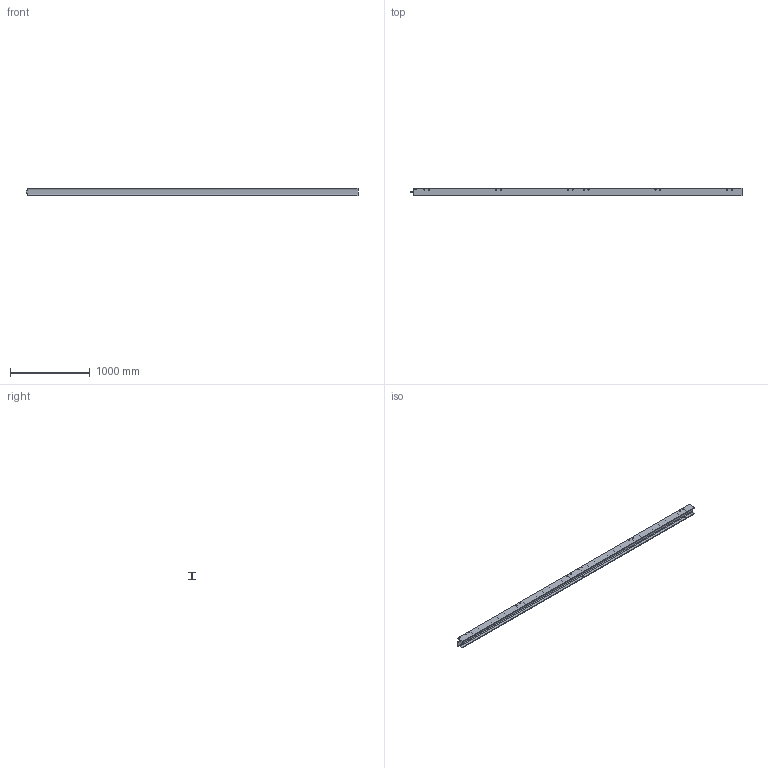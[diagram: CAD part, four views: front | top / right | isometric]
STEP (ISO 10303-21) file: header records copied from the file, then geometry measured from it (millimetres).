
FILE_DESCRIPTION (( 'STEP AP214' ), '1' );
FILE_NAME ('CCJ029-REP.017 - POUTRE B4-B6.STEP', '2025-02-13T07:38:46', ( '' ), ( '' ), 'SwSTEP 2.0', 'SolidWorks 2021', '' );
FILE_SCHEMA (( 'AUTOMOTIVE_DESIGN' ));
Length unit declared in the file: millimetre
Products named in the file (1): CCJ029-REP.017 - POUTRE B4-B6
Bounding box: 4165 x 100 x 100 mm (x, y, z)
Volume: 10716379.8 mm3; surface area: 2351072.6 mm2
Topology: 1 solids, 1 shells, 81 faces, 225 edges, 150 vertices
Faces by surface type: cylinder 38, plane 34, bspline 9
Entity records: 3499 total; most frequent: CARTESIAN_POINT 1314, ORIENTED_EDGE 450, DIRECTION 425, EDGE_CURVE 225, VERTEX_POINT 150, AXIS2_PLACEMENT_3D 149, VECTOR 127, LINE 127
